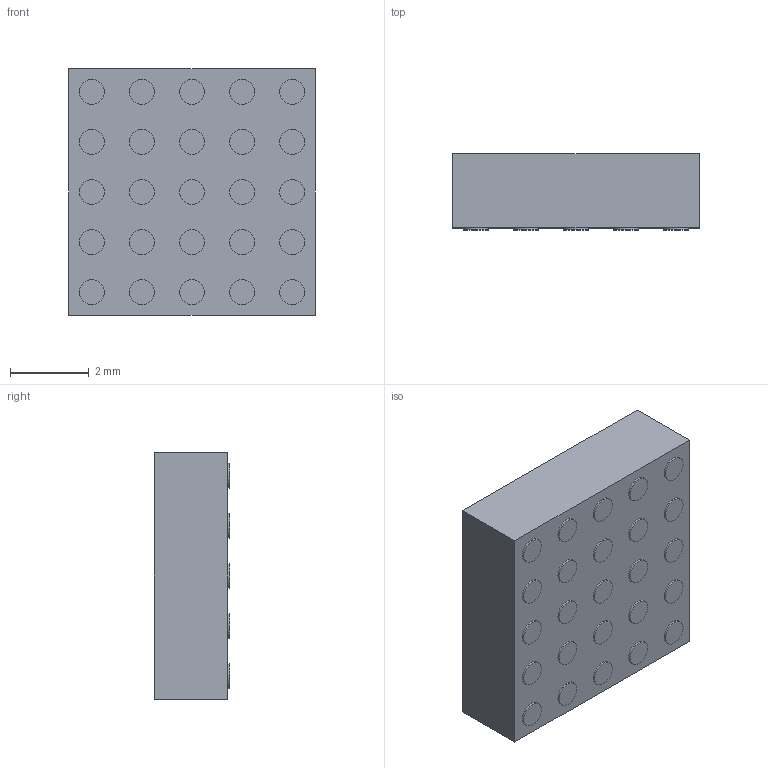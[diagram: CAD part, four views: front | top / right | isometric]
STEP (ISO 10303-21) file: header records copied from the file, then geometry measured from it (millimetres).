
FILE_DESCRIPTION (( 'STEP AP214' ), '1' );
FILE_NAME ( 'LGA25CP127_5X5_625X625X192L63.STEP', '2021-10-06T06:49:14', ( '' ), ( '' ), '', '©2017 PCB Libraries, Inc.', '' );
FILE_SCHEMA (( 'AUTOMOTIVE_DESIGN' ));
Length unit declared in the file: millimetre
Products named in the file (1): LGA25CP127_5X5_625X625X192L63
Bounding box: 6.25 x 1.92 x 6.25 mm (x, y, z)
Volume: 73.4 mm3; surface area: 143 mm2
Topology: 26 solids, 26 shells, 109 faces, 168 edges, 112 vertices
Faces by surface type: plane 57, cylinder 50, torus 2
Entity records: 3054 total; most frequent: DIRECTION 494, CARTESIAN_POINT 390, ORIENTED_EDGE 336, AXIS2_PLACEMENT_3D 216, EDGE_CURVE 168, STYLED_ITEM 136, PRESENTATION_LAYER_ASSIGNMENT 136, MECHANICAL_DESIGN_GEOMETRIC_PRESENTATION_REPRESENTATION 136
